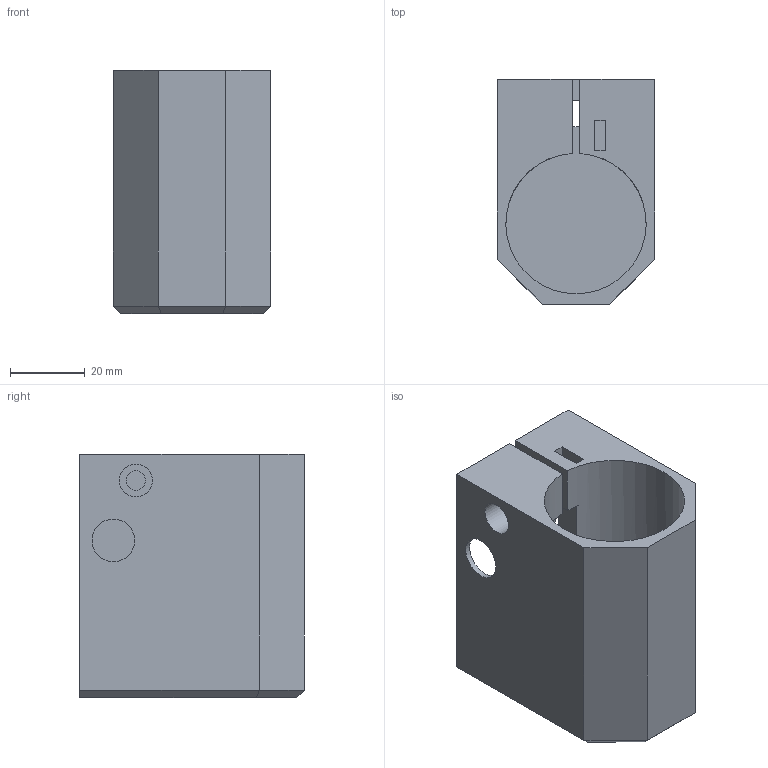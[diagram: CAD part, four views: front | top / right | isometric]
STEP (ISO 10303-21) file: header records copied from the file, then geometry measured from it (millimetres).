
FILE_DESCRIPTION(/* description */ ('Alibre Inc.'),/* implementation_level */ '2;1');
FILE_NAME(/* name */ 'export-C2957180-E518-47BE-BDAD-098697694229',/* time_stamp */ '2023-05-25T19:43:24+01:00',/* author */ (''),/* organization */ (''),/* preprocessor_version */ 'ST-DEVELOPER v17',/* originating_system */ 'Alibre',/* authorisation */ '');
FILE_SCHEMA (('AUTOMOTIVE_DESIGN'));
Length unit declared in the file: millimetre
Bounding box: 42 x 60 x 65 mm (x, y, z)
Volume: 49491 mm3; surface area: 27791.2 mm2
Topology: 1 solids, 1 shells, 65 faces, 152 edges, 101 vertices
Faces by surface type: plane 50, cylinder 15
Full cylindrical faces by diameter (mm): 2.6 x4, 4.5 x4, 5.2 x3, 7.1 x1, 8.8 x1, 11.4 x1
Entity records: 1685 total; most frequent: CARTESIAN_POINT 286, ORIENTED_EDGE 270, DIRECTION 234, EDGE_CURVE 135, EDGE_LOOP 99, FACE_BOUND 99, VERTEX_POINT 98, VECTOR 96
